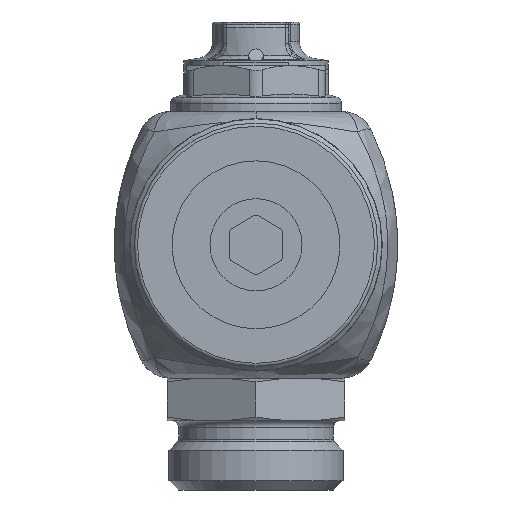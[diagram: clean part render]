
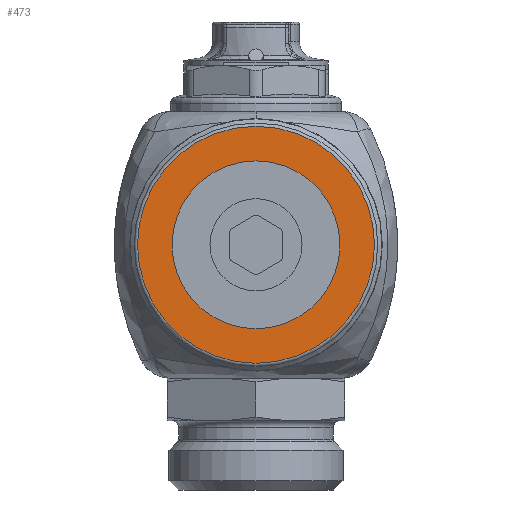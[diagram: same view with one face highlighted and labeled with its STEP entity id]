
A CAD part, front view. The second image highlights one B-rep face of the part: STEP entity #473.
In plain terms, the highlighted planar face has unit normal (0, -1, 0).
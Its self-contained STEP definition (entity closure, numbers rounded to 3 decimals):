
#473=ADVANCED_FACE('',(#14565,#14567),#14569,.F.);
#14565=FACE_BOUND('',#14566,.T.);
#14566=EDGE_LOOP('',(#17035));
#14567=FACE_BOUND('',#14568,.T.);
#14568=EDGE_LOOP('',(#17036));
#14569=PLANE('',#14570);
#14570=AXIS2_PLACEMENT_3D('',#14571,#14572,#14573);
#14571=CARTESIAN_POINT('',(0.,-70.75,0.));
#14572=DIRECTION('',(0.,1.,0.));
#14573=DIRECTION('',(-1.,0.,0.));
#17035=ORIENTED_EDGE('',*,*,#23835,.T.);
#17036=ORIENTED_EDGE('',*,*,#23862,.T.);
#23835=EDGE_CURVE('',#26530,#26530,#26531,.T.);
#23862=EDGE_CURVE('',#26573,#26573,#26574,.F.);
#26530=VERTEX_POINT('',#38551);
#26531=CIRCLE('',#38552,18.);
#26573=VERTEX_POINT('',#38654);
#26574=CIRCLE('',#38655,12.75);
#38551=CARTESIAN_POINT('',(18.,-70.75,0.));
#38552=AXIS2_PLACEMENT_3D('',#38553,#38554,#38555);
#38553=CARTESIAN_POINT('',(0.,-70.75,0.));
#38554=DIRECTION('',(0.,-1.,0.));
#38555=DIRECTION('',(1.,0.,0.));
#38654=CARTESIAN_POINT('',(12.75,-70.75,0.));
#38655=AXIS2_PLACEMENT_3D('',#38656,#38657,#38658);
#38656=CARTESIAN_POINT('',(0.,-70.75,0.));
#38657=DIRECTION('',(0.,-1.,0.));
#38658=DIRECTION('',(1.,0.,0.));
